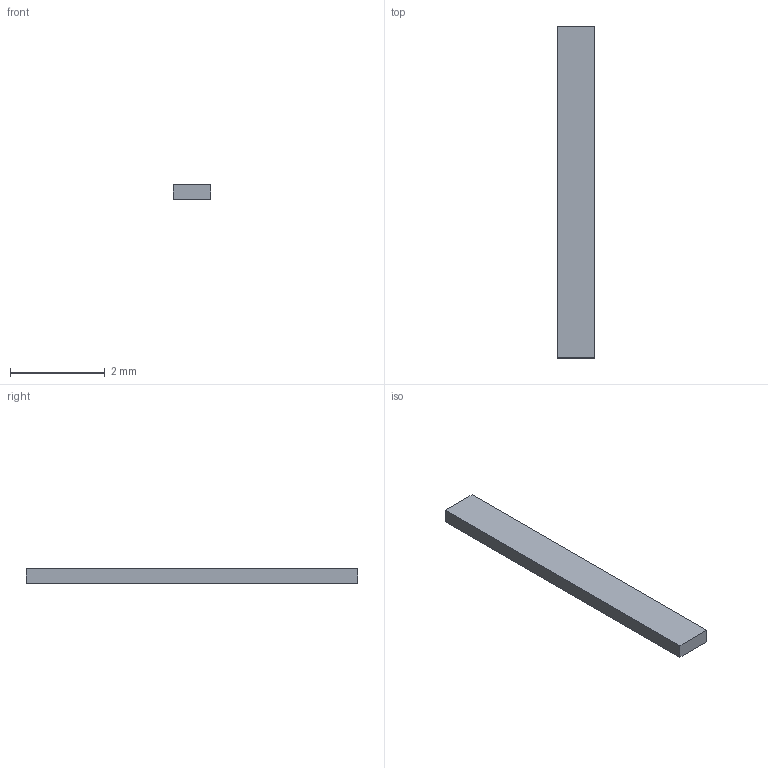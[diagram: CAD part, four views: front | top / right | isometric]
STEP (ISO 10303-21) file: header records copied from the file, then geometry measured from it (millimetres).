
FILE_DESCRIPTION(('Open CASCADE Model'),'2;1');
FILE_NAME('C27_UC1_PCB_Front_Seat_2_FREE_STATE','2026-09-09T20:28:31',( 'Author'),('Open CASCADE'),'Open CASCADE STEP processor 7.9', 'build123d','Unknown');
FILE_SCHEMA(('AUTOMOTIVE_DESIGN { 1 0 10303 214 1 1 1 1 }'));
Length unit declared in the file: millimetre
Products named in the file (1): C27_UC1_PCB_Front_Seat_2_FREE_STATE
Bounding box: 0.8 x 7 x 0.3 mm (x, y, z)
Volume: 1.7 mm3; surface area: 15.9 mm2
Topology: 1 solids, 1 shells, 6 faces, 12 edges, 8 vertices
Faces by surface type: plane 6
Entity records: 322 total; most frequent: CARTESIAN_POINT 51, DIRECTION 50, LINE 36, VECTOR 36, ORIENTED_EDGE 24, PCURVE 24, DEFINITIONAL_REPRESENTATION 24, EDGE_CURVE 12
